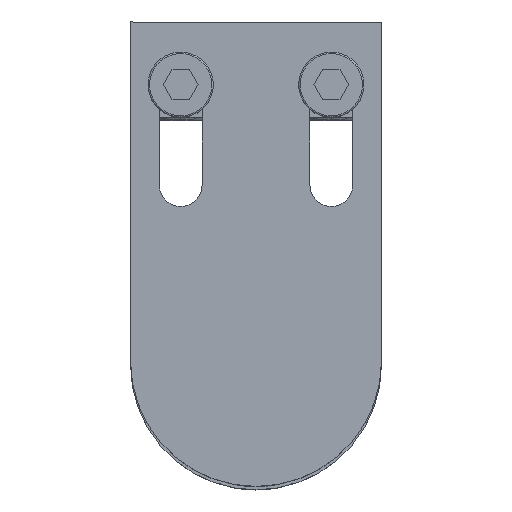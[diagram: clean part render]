
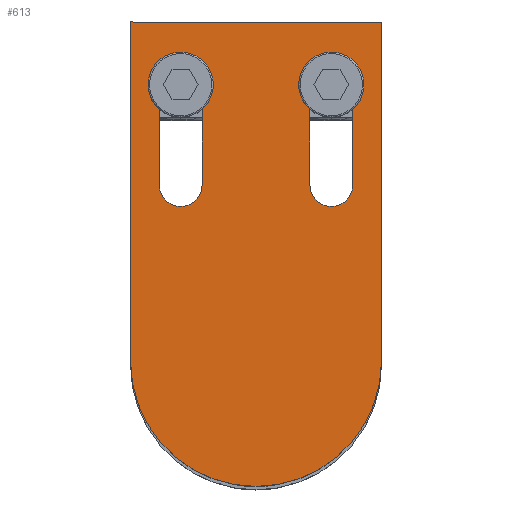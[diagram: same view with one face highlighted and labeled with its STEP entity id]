
A CAD part, top view. The second image highlights one B-rep face of the part: STEP entity #613.
In plain terms, the highlighted planar face has unit normal (0, 0, 1) as drawn and (0, 0, -1) by its records, which use the part's own axes.
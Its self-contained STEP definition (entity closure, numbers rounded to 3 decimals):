
#29 = ORIENTED_EDGE ( 'NONE', *, *, #1358, .F. ) ;
#71 = DIRECTION ( 'NONE',  ( 0., 1., 0. ) ) ;
#116 = VECTOR ( 'NONE', #5040, 1000. ) ;
#124 = VECTOR ( 'NONE', #2411, 1000. ) ;
#175 = LINE ( 'NONE', #2152, #116 ) ;
#226 = ORIENTED_EDGE ( 'NONE', *, *, #3024, .T. ) ;
#276 = EDGE_CURVE ( 'NONE', #4043, #1478, #3869, .T. ) ;
#297 = FACE_OUTER_BOUND ( 'NONE', #2329, .T. ) ;
#375 = VERTEX_POINT ( 'NONE', #4017 ) ;
#427 = DIRECTION ( 'NONE',  ( 1., 0., 0. ) ) ;
#444 = EDGE_CURVE ( 'NONE', #5010, #4699, #4882, .T. ) ;
#473 = CIRCLE ( 'NONE', #1344, 25. ) ;
#532 = LINE ( 'NONE', #3181, #4800 ) ;
#613 = ADVANCED_FACE ( 'NONE', ( #2894, #2697, #297 ), #2171, .F. ) ;
#820 = VERTEX_POINT ( 'NONE', #2714 ) ;
#840 = DIRECTION ( 'NONE',  ( 0., -1., 0. ) ) ;
#870 = ORIENTED_EDGE ( 'NONE', *, *, #1695, .T. ) ;
#1014 = EDGE_CURVE ( 'NONE', #4543, #3817, #3282, .T. ) ;
#1112 = CARTESIAN_POINT ( 'NONE',  ( -25., 0., -6. ) ) ;
#1156 = DIRECTION ( 'NONE',  ( 0., 0., 1. ) ) ;
#1182 = CARTESIAN_POINT ( 'NONE',  ( 25., 67.5, -6. ) ) ;
#1198 = EDGE_LOOP ( 'NONE', ( #3670, #3490, #2209, #3431 ) ) ;
#1235 = DIRECTION ( 'NONE',  ( 0., 1., 0. ) ) ;
#1254 = VECTOR ( 'NONE', #1235, 1000. ) ;
#1256 = VERTEX_POINT ( 'NONE', #2592 ) ;
#1343 = CARTESIAN_POINT ( 'NONE',  ( -10.75, 55., -6. ) ) ;
#1344 = AXIS2_PLACEMENT_3D ( 'NONE', #3292, #2526, #4097 ) ;
#1358 = EDGE_CURVE ( 'NONE', #4699, #3658, #175, .T. ) ;
#1406 = CARTESIAN_POINT ( 'NONE',  ( 10.75, 55., -6. ) ) ;
#1478 = VERTEX_POINT ( 'NONE', #3075 ) ;
#1539 = CARTESIAN_POINT ( 'NONE',  ( 10.75, 35., -6. ) ) ;
#1578 = DIRECTION ( 'NONE',  ( -1., 0., 0. ) ) ;
#1595 = CARTESIAN_POINT ( 'NONE',  ( 25., 67.5, -6. ) ) ;
#1695 = EDGE_CURVE ( 'NONE', #1256, #5201, #1752, .T. ) ;
#1707 = CARTESIAN_POINT ( 'NONE',  ( -15., 55., -6. ) ) ;
#1710 = AXIS2_PLACEMENT_3D ( 'NONE', #2848, #1156, #427 ) ;
#1728 = LINE ( 'NONE', #2436, #4022 ) ;
#1752 = LINE ( 'NONE', #3265, #1254 ) ;
#1816 = CIRCLE ( 'NONE', #4842, 4.25 ) ;
#1900 = EDGE_CURVE ( 'NONE', #5201, #4543, #1816, .T. ) ;
#1912 = CIRCLE ( 'NONE', #5225, 4.25 ) ;
#2112 = ORIENTED_EDGE ( 'NONE', *, *, #2627, .F. ) ;
#2152 = CARTESIAN_POINT ( 'NONE',  ( -25., 0., -6. ) ) ;
#2171 = PLANE ( 'NONE',  #3649 ) ;
#2209 = ORIENTED_EDGE ( 'NONE', *, *, #2551, .T. ) ;
#2329 = EDGE_LOOP ( 'NONE', ( #2112, #29, #3674, #3665 ) ) ;
#2411 = DIRECTION ( 'NONE',  ( 0., -1., 0. ) ) ;
#2425 = CARTESIAN_POINT ( 'NONE',  ( -19.25, 35., -6. ) ) ;
#2436 = CARTESIAN_POINT ( 'NONE',  ( 25., 0., -6. ) ) ;
#2526 = DIRECTION ( 'NONE',  ( 0., 0., 1. ) ) ;
#2551 = EDGE_CURVE ( 'NONE', #1478, #375, #532, .T. ) ;
#2563 = DIRECTION ( 'NONE',  ( 1., 0., 0. ) ) ;
#2592 = CARTESIAN_POINT ( 'NONE',  ( -10.75, 35., -6. ) ) ;
#2612 = EDGE_CURVE ( 'NONE', #4631, #4043, #3270, .T. ) ;
#2613 = CIRCLE ( 'NONE', #1710, 4.25 ) ;
#2627 = EDGE_CURVE ( 'NONE', #3658, #820, #473, .T. ) ;
#2697 = FACE_BOUND ( 'NONE', #3114, .T. ) ;
#2714 = CARTESIAN_POINT ( 'NONE',  ( 25., 0., -6. ) ) ;
#2802 = DIRECTION ( 'NONE',  ( 0., 0., 1. ) ) ;
#2848 = CARTESIAN_POINT ( 'NONE',  ( -15., 35., -6. ) ) ;
#2880 = AXIS2_PLACEMENT_3D ( 'NONE', #3175, #2802, #4392 ) ;
#2894 = FACE_BOUND ( 'NONE', #1198, .T. ) ;
#3024 = EDGE_CURVE ( 'NONE', #3817, #1256, #2613, .T. ) ;
#3075 = CARTESIAN_POINT ( 'NONE',  ( 19.25, 35., -6. ) ) ;
#3093 = EDGE_CURVE ( 'NONE', #820, #5010, #1728, .T. ) ;
#3102 = CARTESIAN_POINT ( 'NONE',  ( -25., 67.5, -6. ) ) ;
#3114 = EDGE_LOOP ( 'NONE', ( #3223, #226, #870, #3929 ) ) ;
#3166 = CARTESIAN_POINT ( 'NONE',  ( -19.25, 35., -6. ) ) ;
#3175 = CARTESIAN_POINT ( 'NONE',  ( 15., 35., -6. ) ) ;
#3181 = CARTESIAN_POINT ( 'NONE',  ( 19.25, 35., -6. ) ) ;
#3223 = ORIENTED_EDGE ( 'NONE', *, *, #1014, .T. ) ;
#3252 = DIRECTION ( 'NONE',  ( 0., 1., 0. ) ) ;
#3265 = CARTESIAN_POINT ( 'NONE',  ( -10.75, 35., -6. ) ) ;
#3270 = LINE ( 'NONE', #4913, #3976 ) ;
#3282 = LINE ( 'NONE', #2425, #124 ) ;
#3292 = CARTESIAN_POINT ( 'NONE',  ( 0., 0., -6. ) ) ;
#3431 = ORIENTED_EDGE ( 'NONE', *, *, #4661, .T. ) ;
#3490 = ORIENTED_EDGE ( 'NONE', *, *, #276, .T. ) ;
#3649 = AXIS2_PLACEMENT_3D ( 'NONE', #4153, #4564, #2563 ) ;
#3658 = VERTEX_POINT ( 'NONE', #1112 ) ;
#3665 = ORIENTED_EDGE ( 'NONE', *, *, #3093, .F. ) ;
#3670 = ORIENTED_EDGE ( 'NONE', *, *, #2612, .T. ) ;
#3674 = ORIENTED_EDGE ( 'NONE', *, *, #444, .F. ) ;
#3817 = VERTEX_POINT ( 'NONE', #3166 ) ;
#3869 = CIRCLE ( 'NONE', #2880, 4.25 ) ;
#3891 = DIRECTION ( 'NONE',  ( -1., 0., 0. ) ) ;
#3929 = ORIENTED_EDGE ( 'NONE', *, *, #1900, .T. ) ;
#3976 = VECTOR ( 'NONE', #840, 1000. ) ;
#4017 = CARTESIAN_POINT ( 'NONE',  ( 19.25, 55., -6. ) ) ;
#4022 = VECTOR ( 'NONE', #71, 1000. ) ;
#4043 = VERTEX_POINT ( 'NONE', #1539 ) ;
#4097 = DIRECTION ( 'NONE',  ( 1., 0., 0. ) ) ;
#4153 = CARTESIAN_POINT ( 'NONE',  ( 0., 0., -6. ) ) ;
#4159 = DIRECTION ( 'NONE',  ( 0., 0., 1. ) ) ;
#4280 = DIRECTION ( 'NONE',  ( 0., 0., 1. ) ) ;
#4392 = DIRECTION ( 'NONE',  ( -1., 0., 0. ) ) ;
#4507 = VECTOR ( 'NONE', #1578, 1000. ) ;
#4543 = VERTEX_POINT ( 'NONE', #5013 ) ;
#4564 = DIRECTION ( 'NONE',  ( 0., 0., 1. ) ) ;
#4571 = DIRECTION ( 'NONE',  ( 1., 0., 0. ) ) ;
#4631 = VERTEX_POINT ( 'NONE', #1406 ) ;
#4661 = EDGE_CURVE ( 'NONE', #375, #4631, #1912, .T. ) ;
#4669 = CARTESIAN_POINT ( 'NONE',  ( 15., 55., -6. ) ) ;
#4699 = VERTEX_POINT ( 'NONE', #3102 ) ;
#4800 = VECTOR ( 'NONE', #3252, 1000. ) ;
#4842 = AXIS2_PLACEMENT_3D ( 'NONE', #1707, #4159, #4571 ) ;
#4882 = LINE ( 'NONE', #1595, #4507 ) ;
#4913 = CARTESIAN_POINT ( 'NONE',  ( 10.75, 35., -6. ) ) ;
#5010 = VERTEX_POINT ( 'NONE', #1182 ) ;
#5013 = CARTESIAN_POINT ( 'NONE',  ( -19.25, 55., -6. ) ) ;
#5040 = DIRECTION ( 'NONE',  ( 0., -1., 0. ) ) ;
#5201 = VERTEX_POINT ( 'NONE', #1343 ) ;
#5225 = AXIS2_PLACEMENT_3D ( 'NONE', #4669, #4280, #3891 ) ;
